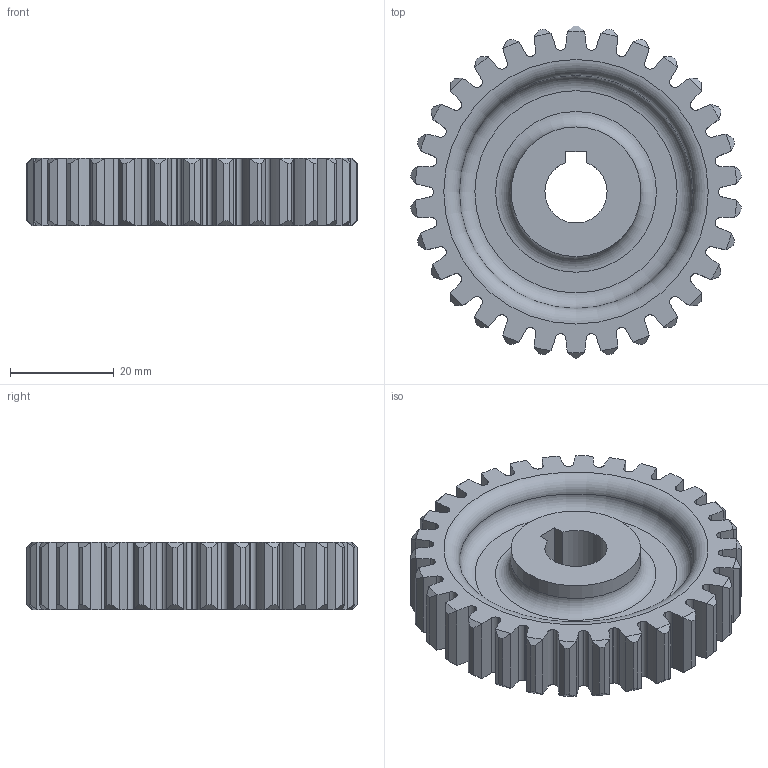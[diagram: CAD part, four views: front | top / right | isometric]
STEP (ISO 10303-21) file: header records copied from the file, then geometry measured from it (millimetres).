
FILE_DESCRIPTION(/* description */ (''),/* implementation_level */ '2;1');
FILE_NAME(/* name */ 'C:\Users\kh\Desktop\381209E1010\381209E1010.stp',/* time_stamp */ '2018-12-08T11:08:07+09:00',/* author */ ('kh'),/* organization */ (''),/* preprocessor_version */ 'ST-DEVELOPER v15.2',/* originating_system */ 'Autodesk Inventor 2014',/* authorisation */ '');
FILE_SCHEMA (('AUTOMOTIVE_DESIGN { 1 0 10303 214 3 1 1 }'));
Length unit declared in the file: millimetre
Products named in the file (1): 381209E1010
Bounding box: 63.75 x 64 x 13 mm (x, y, z)
Volume: 28845.5 mm3; surface area: 11567.8 mm2
Topology: 1 solids, 1 shells, 312 faces, 922 edges, 614 vertices
Faces by surface type: cylinder 182, plane 67, cone 60, torus 3
Full cylindrical faces by diameter (mm): 25 x1
Entity records: 10623 total; most frequent: CARTESIAN_POINT 2445, ORIENTED_EDGE 1836, DIRECTION 1732, EDGE_CURVE 918, AXIS2_PLACEMENT_3D 741, VERTEX_POINT 614, CIRCLE 428, EDGE_LOOP 320
